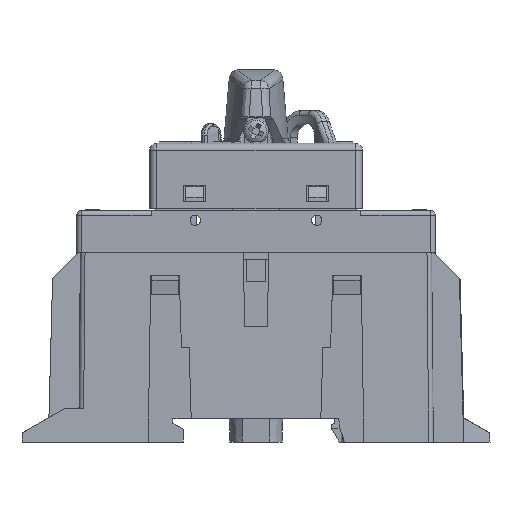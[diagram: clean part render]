
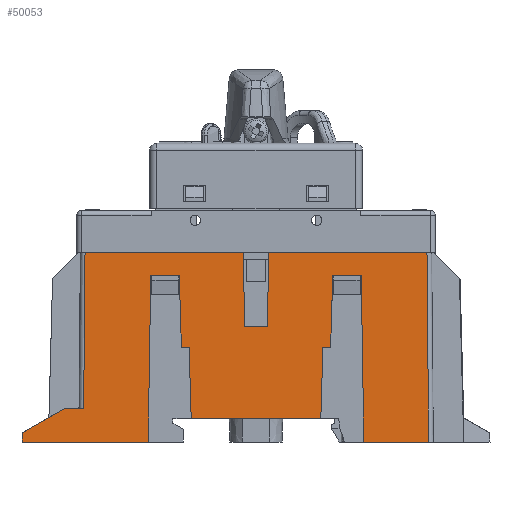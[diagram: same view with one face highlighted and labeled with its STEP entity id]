
A CAD part, left-side view. The second image highlights one B-rep face of the part: STEP entity #50053.
In plain terms, the highlighted planar face has unit normal (-1, 0, 0.009).
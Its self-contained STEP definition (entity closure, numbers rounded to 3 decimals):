
#24980=CARTESIAN_POINT('',(54.351,-23.908,-0.826));
#24981=VERTEX_POINT('',#24980);
#24988=CARTESIAN_POINT('',(54.351,-57.816,-0.826));
#24989=VERTEX_POINT('',#24988);
#24990=CARTESIAN_POINT('',(54.351,-57.816,-0.826));
#24991=DIRECTION('',(0.0,1.0,0.0));
#24992=VECTOR('',#24991,33.908);
#24993=LINE('',#24990,#24992);
#24994=EDGE_CURVE('',#24989,#24981,#24993,.T.);
#25159=CARTESIAN_POINT('',(54.351,15.277,-0.826));
#25160=VERTEX_POINT('',#25159);
#25168=CARTESIAN_POINT('',(54.351,-18.631,-0.826));
#25169=VERTEX_POINT('',#25168);
#25170=CARTESIAN_POINT('',(54.351,-18.631,-0.826));
#25171=DIRECTION('',(0.0,1.0,0.0));
#25172=VECTOR('',#25171,33.908);
#25173=LINE('',#25170,#25172);
#25174=EDGE_CURVE('',#25169,#25160,#25173,.T.);
#47115=CARTESIAN_POINT('',(53.997,1.78,-41.326));
#47116=VERTEX_POINT('',#47115);
#47123=CARTESIAN_POINT('',(53.997,28.748,-41.326));
#47124=VERTEX_POINT('',#47123);
#47125=CARTESIAN_POINT('',(53.997,1.78,-41.326));
#47126=DIRECTION('',(0.0,1.0,0.0));
#47127=VECTOR('',#47126,26.967);
#47128=LINE('',#47125,#47127);
#47129=EDGE_CURVE('',#47116,#47124,#47128,.T.);
#47728=CARTESIAN_POINT('',(54.06,19.568,-34.176));
#47729=VERTEX_POINT('',#47728);
#47736=CARTESIAN_POINT('',(54.06,15.568,-34.176));
#47737=VERTEX_POINT('',#47736);
#47738=CARTESIAN_POINT('',(54.06,15.568,-34.176));
#47739=DIRECTION('',(0.0,1.0,0.0));
#47740=VECTOR('',#47739,4.);
#47741=LINE('',#47738,#47740);
#47742=EDGE_CURVE('',#47737,#47729,#47741,.T.);
#48730=CARTESIAN_POINT('',(54.175,-6.966,-21.026));
#48731=VERTEX_POINT('',#48730);
#48738=CARTESIAN_POINT('',(54.175,-5.322,-21.026));
#48739=VERTEX_POINT('',#48738);
#48740=CARTESIAN_POINT('',(54.175,-6.966,-21.026));
#48741=DIRECTION('',(0.0,1.0,0.0));
#48742=VECTOR('',#48741,1.643);
#48743=LINE('',#48740,#48742);
#48744=EDGE_CURVE('',#48739,#48731,#48743,.F.);
#48859=CARTESIAN_POINT('',(54.308,-37.671,-5.726));
#48860=VERTEX_POINT('',#48859);
#48867=CARTESIAN_POINT('',(54.175,-37.217,-21.026));
#48868=VERTEX_POINT('',#48867);
#48869=CARTESIAN_POINT('',(54.308,-37.671,-5.726));
#48870=DIRECTION('',(-0.009,0.03,-1.));
#48871=VECTOR('',#48870,15.307);
#48872=LINE('',#48869,#48871);
#48873=EDGE_CURVE('',#48868,#48860,#48872,.F.);
#48947=CARTESIAN_POINT('',(54.175,-35.574,-21.026));
#48948=VERTEX_POINT('',#48947);
#48949=CARTESIAN_POINT('',(54.175,-37.217,-21.026));
#48950=DIRECTION('',(0.0,1.0,0.0));
#48951=VECTOR('',#48950,1.643);
#48952=LINE('',#48949,#48951);
#48953=EDGE_CURVE('',#48948,#48868,#48952,.F.);
#49788=CARTESIAN_POINT('',(53.997,-58.17,-41.326));
#49789=VERTEX_POINT('',#49788);
#49790=CARTESIAN_POINT('',(54.351,-57.816,-0.826));
#49791=DIRECTION('',(-0.009,-0.009,-1.));
#49792=VECTOR('',#49791,40.503);
#49793=LINE('',#49790,#49792);
#49794=EDGE_CURVE('',#24989,#49789,#49793,.T.);
#49925=CARTESIAN_POINT('',(54.06,15.568,-34.176));
#49926=DIRECTION('',(0.009,-0.009,1.));
#49927=VECTOR('',#49926,33.353);
#49928=LINE('',#49925,#49927);
#49929=EDGE_CURVE('',#47737,#25160,#49928,.T.);
#49935=CARTESIAN_POINT('',(53.997,15.23,-41.326));
#49936=DIRECTION('',(-1.,0.,0.009));
#49937=DIRECTION('',(-0.009,0.,-1.));
#49938=AXIS2_PLACEMENT_3D('',#49935,#49936,#49937);
#49939=PLANE('',#49938);
#49940=ORIENTED_EDGE('',*,*,#49794,.F.);
#49941=ORIENTED_EDGE('',*,*,#24994,.T.);
#49942=CARTESIAN_POINT('',(54.212,-23.77,-16.726));
#49943=VERTEX_POINT('',#49942);
#49944=CARTESIAN_POINT('',(54.351,-23.908,-0.826));
#49945=DIRECTION('',(-0.009,0.009,-1.));
#49946=VECTOR('',#49945,15.901);
#49947=LINE('',#49944,#49946);
#49948=EDGE_CURVE('',#24981,#49943,#49947,.T.);
#49949=ORIENTED_EDGE('',*,*,#49948,.T.);
#49950=CARTESIAN_POINT('',(54.212,-18.77,-16.726));
#49951=VERTEX_POINT('',#49950);
#49952=CARTESIAN_POINT('',(54.212,-23.77,-16.726));
#49953=DIRECTION('',(0.0,1.0,0.0));
#49954=VECTOR('',#49953,5.);
#49955=LINE('',#49952,#49954);
#49956=EDGE_CURVE('',#49943,#49951,#49955,.T.);
#49957=ORIENTED_EDGE('',*,*,#49956,.T.);
#49958=CARTESIAN_POINT('',(54.212,-18.77,-16.726));
#49959=DIRECTION('',(0.009,0.009,1.));
#49960=VECTOR('',#49959,15.901);
#49961=LINE('',#49958,#49960);
#49962=EDGE_CURVE('',#49951,#25169,#49961,.T.);
#49963=ORIENTED_EDGE('',*,*,#49962,.T.);
#49964=ORIENTED_EDGE('',*,*,#25174,.T.);
#49965=ORIENTED_EDGE('',*,*,#49929,.F.);
#49966=ORIENTED_EDGE('',*,*,#47742,.T.);
#49967=CARTESIAN_POINT('',(54.015,28.73,-39.326));
#49968=VERTEX_POINT('',#49967);
#49969=CARTESIAN_POINT('',(54.015,28.73,-39.326));
#49970=DIRECTION('',(0.004,-0.872,0.49));
#49971=VECTOR('',#49970,10.511);
#49972=LINE('',#49969,#49971);
#49973=EDGE_CURVE('',#47729,#49968,#49972,.F.);
#49974=ORIENTED_EDGE('',*,*,#49973,.T.);
#49975=CARTESIAN_POINT('',(54.015,28.73,-39.326));
#49976=DIRECTION('',(-0.009,0.009,-1.));
#49977=VECTOR('',#49976,2.);
#49978=LINE('',#49975,#49977);
#49979=EDGE_CURVE('',#47124,#49968,#49978,.F.);
#49980=ORIENTED_EDGE('',*,*,#49979,.F.);
#49981=ORIENTED_EDGE('',*,*,#47129,.F.);
#49982=CARTESIAN_POINT('',(54.308,1.221,-5.726));
#49983=VERTEX_POINT('',#49982);
#49984=CARTESIAN_POINT('',(54.308,1.221,-5.726));
#49985=DIRECTION('',(-0.009,0.016,-1.));
#49986=VECTOR('',#49985,35.606);
#49987=LINE('',#49984,#49986);
#49988=EDGE_CURVE('',#47116,#49983,#49987,.F.);
#49989=ORIENTED_EDGE('',*,*,#49988,.T.);
#49990=CARTESIAN_POINT('',(54.308,-4.868,-5.726));
#49991=VERTEX_POINT('',#49990);
#49992=CARTESIAN_POINT('',(54.308,-4.868,-5.726));
#49993=DIRECTION('',(0.0,1.0,0.0));
#49994=VECTOR('',#49993,6.089);
#49995=LINE('',#49992,#49994);
#49996=EDGE_CURVE('',#49983,#49991,#49995,.F.);
#49997=ORIENTED_EDGE('',*,*,#49996,.T.);
#49998=CARTESIAN_POINT('',(54.175,-5.322,-21.026));
#49999=DIRECTION('',(0.009,0.03,1.));
#50000=VECTOR('',#49999,15.307);
#50001=LINE('',#49998,#50000);
#50002=EDGE_CURVE('',#49991,#48739,#50001,.F.);
#50003=ORIENTED_EDGE('',*,*,#50002,.T.);
#50004=ORIENTED_EDGE('',*,*,#48744,.T.);
#50005=CARTESIAN_POINT('',(54.041,-7.42,-36.326));
#50006=VERTEX_POINT('',#50005);
#50007=CARTESIAN_POINT('',(54.041,-7.42,-36.326));
#50008=DIRECTION('',(0.009,0.03,1.));
#50009=VECTOR('',#50008,15.307);
#50010=LINE('',#50007,#50009);
#50011=EDGE_CURVE('',#48731,#50006,#50010,.F.);
#50012=ORIENTED_EDGE('',*,*,#50011,.T.);
#50013=CARTESIAN_POINT('',(54.041,-35.12,-36.326));
#50014=VERTEX_POINT('',#50013);
#50015=CARTESIAN_POINT('',(54.041,-35.12,-36.326));
#50016=DIRECTION('',(0.0,1.0,0.0));
#50017=VECTOR('',#50016,27.7);
#50018=LINE('',#50015,#50017);
#50019=EDGE_CURVE('',#50006,#50014,#50018,.F.);
#50020=ORIENTED_EDGE('',*,*,#50019,.T.);
#50021=CARTESIAN_POINT('',(54.175,-35.574,-21.026));
#50022=DIRECTION('',(-0.009,0.03,-1.));
#50023=VECTOR('',#50022,15.307);
#50024=LINE('',#50021,#50023);
#50025=EDGE_CURVE('',#50014,#48948,#50024,.F.);
#50026=ORIENTED_EDGE('',*,*,#50025,.T.);
#50027=ORIENTED_EDGE('',*,*,#48953,.T.);
#50028=ORIENTED_EDGE('',*,*,#48873,.T.);
#50029=CARTESIAN_POINT('',(54.308,-43.76,-5.726));
#50030=VERTEX_POINT('',#50029);
#50031=CARTESIAN_POINT('',(54.308,-43.76,-5.726));
#50032=DIRECTION('',(0.0,1.0,0.0));
#50033=VECTOR('',#50032,6.089);
#50034=LINE('',#50031,#50033);
#50035=EDGE_CURVE('',#48860,#50030,#50034,.F.);
#50036=ORIENTED_EDGE('',*,*,#50035,.T.);
#50037=CARTESIAN_POINT('',(53.997,-44.32,-41.326));
#50038=VERTEX_POINT('',#50037);
#50039=CARTESIAN_POINT('',(53.997,-44.32,-41.326));
#50040=DIRECTION('',(0.009,0.016,1.));
#50041=VECTOR('',#50040,35.606);
#50042=LINE('',#50039,#50041);
#50043=EDGE_CURVE('',#50030,#50038,#50042,.F.);
#50044=ORIENTED_EDGE('',*,*,#50043,.T.);
#50045=CARTESIAN_POINT('',(53.997,-58.17,-41.326));
#50046=DIRECTION('',(0.0,1.0,0.0));
#50047=VECTOR('',#50046,13.85);
#50048=LINE('',#50045,#50047);
#50049=EDGE_CURVE('',#49789,#50038,#50048,.T.);
#50050=ORIENTED_EDGE('',*,*,#50049,.F.);
#50051=EDGE_LOOP('',(#49940,#49941,#49949,#49957,#49963,#49964,#49965,#49966,#49974,#49980,#49981,#49989,#49997,#50003,#50004,#50012,#50020,#50026,#50027,#50028,#50036,#50044,#50050));
#50052=FACE_OUTER_BOUND('',#50051,.T.);
#50053=ADVANCED_FACE('',(#50052),#49939,.T.);
